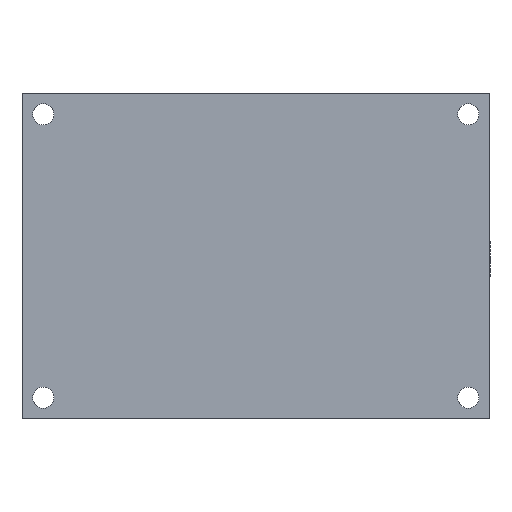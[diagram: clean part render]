
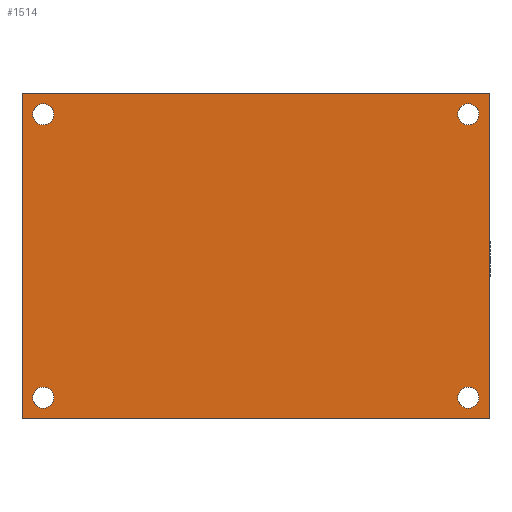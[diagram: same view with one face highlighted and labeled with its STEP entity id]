
A CAD part, top view. The second image highlights one B-rep face of the part: STEP entity #1514.
In plain terms, the highlighted planar face has unit normal (0, 0, 1).
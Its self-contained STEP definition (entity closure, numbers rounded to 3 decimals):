
#21 = AXIS2_PLACEMENT_3D ( 'NONE', #1405, #1580, #161 ) ;
#24 = VERTEX_POINT ( 'NONE', #1879 ) ;
#31 = EDGE_CURVE ( 'NONE', #1352, #1154, #1092, .T. ) ;
#40 = CARTESIAN_POINT ( 'NONE',  ( 38.151, 20.444, 1.5 ) ) ;
#79 = ORIENTED_EDGE ( 'NONE', *, *, #310, .T. ) ;
#86 = DIRECTION ( 'NONE',  ( 1., 0., 0. ) ) ;
#105 = CARTESIAN_POINT ( 'NONE',  ( -23.349, -22.556, 1.5 ) ) ;
#126 = CARTESIAN_POINT ( 'NONE',  ( -24.849, -22.556, 1.5 ) ) ;
#135 = LINE ( 'NONE', #1757, #183 ) ;
#144 = PLANE ( 'NONE',  #21 ) ;
#161 = DIRECTION ( 'NONE',  ( 1., 0., 0. ) ) ;
#175 = VECTOR ( 'NONE', #402, 1000. ) ;
#183 = VECTOR ( 'NONE', #761, 1000. ) ;
#205 = LINE ( 'NONE', #40, #595 ) ;
#207 = VERTEX_POINT ( 'NONE', #650 ) ;
#229 = VERTEX_POINT ( 'NONE', #659 ) ;
#239 = ORIENTED_EDGE ( 'NONE', *, *, #1685, .F. ) ;
#243 = VECTOR ( 'NONE', #1298, 1000. ) ;
#310 = EDGE_CURVE ( 'NONE', #229, #24, #205, .T. ) ;
#313 = ORIENTED_EDGE ( 'NONE', *, *, #518, .F. ) ;
#337 = EDGE_CURVE ( 'NONE', #1764, #207, #1979, .T. ) ;
#348 = CIRCLE ( 'NONE', #1665, 1.5 ) ;
#358 = EDGE_LOOP ( 'NONE', ( #1574, #1381 ) ) ;
#386 = ORIENTED_EDGE ( 'NONE', *, *, #1655, .F. ) ;
#402 = DIRECTION ( 'NONE',  ( -1., 0., 0. ) ) ;
#405 = AXIS2_PLACEMENT_3D ( 'NONE', #1455, #1148, #687 ) ;
#409 = AXIS2_PLACEMENT_3D ( 'NONE', #903, #2024, #1828 ) ;
#422 = CARTESIAN_POINT ( 'NONE',  ( -27.849, 20.444, 1.5 ) ) ;
#431 = CARTESIAN_POINT ( 'NONE',  ( 35.151, 17.444, 1.5 ) ) ;
#449 = EDGE_CURVE ( 'NONE', #24, #1764, #1830, .T. ) ;
#456 = VERTEX_POINT ( 'NONE', #105 ) ;
#473 = CIRCLE ( 'NONE', #409, 1.5 ) ;
#484 = CARTESIAN_POINT ( 'NONE',  ( 36.651, -22.556, 1.5 ) ) ;
#518 = EDGE_CURVE ( 'NONE', #456, #1529, #864, .T. ) ;
#522 = CARTESIAN_POINT ( 'NONE',  ( -23.349, 17.444, 1.5 ) ) ;
#523 = CARTESIAN_POINT ( 'NONE',  ( -26.349, 17.444, 1.5 ) ) ;
#547 = EDGE_CURVE ( 'NONE', #1560, #777, #348, .T. ) ;
#594 = CARTESIAN_POINT ( 'NONE',  ( -24.849, 17.444, 1.5 ) ) ;
#595 = VECTOR ( 'NONE', #1318, 1000. ) ;
#615 = FACE_BOUND ( 'NONE', #2013, .T. ) ;
#618 = DIRECTION ( 'NONE',  ( 1., 0., 0. ) ) ;
#642 = FACE_BOUND ( 'NONE', #1729, .T. ) ;
#650 = CARTESIAN_POINT ( 'NONE',  ( -27.849, -25.556, 1.5 ) ) ;
#659 = CARTESIAN_POINT ( 'NONE',  ( 38.151, -25.556, 1.5 ) ) ;
#687 = DIRECTION ( 'NONE',  ( 1., 0., 0. ) ) ;
#759 = EDGE_LOOP ( 'NONE', ( #1184, #1010, #79, #1345 ) ) ;
#761 = DIRECTION ( 'NONE',  ( 1., 0., 0. ) ) ;
#772 = AXIS2_PLACEMENT_3D ( 'NONE', #1208, #1073, #1689 ) ;
#777 = VERTEX_POINT ( 'NONE', #522 ) ;
#824 = VERTEX_POINT ( 'NONE', #858 ) ;
#851 = CARTESIAN_POINT ( 'NONE',  ( -27.849, 20.444, 1.5 ) ) ;
#857 = EDGE_CURVE ( 'NONE', #1529, #456, #2034, .T. ) ;
#858 = CARTESIAN_POINT ( 'NONE',  ( 33.651, 17.444, 1.5 ) ) ;
#864 = CIRCLE ( 'NONE', #1695, 1.5 ) ;
#892 = AXIS2_PLACEMENT_3D ( 'NONE', #1832, #1349, #1847 ) ;
#903 = CARTESIAN_POINT ( 'NONE',  ( 35.151, 17.444, 1.5 ) ) ;
#911 = FACE_BOUND ( 'NONE', #358, .T. ) ;
#924 = FACE_OUTER_BOUND ( 'NONE', #759, .T. ) ;
#985 = DIRECTION ( 'NONE',  ( 0., 0., 1. ) ) ;
#1010 = ORIENTED_EDGE ( 'NONE', *, *, #1404, .T. ) ;
#1050 = CARTESIAN_POINT ( 'NONE',  ( 33.651, -22.556, 1.5 ) ) ;
#1073 = DIRECTION ( 'NONE',  ( 0., 0., 1. ) ) ;
#1092 = CIRCLE ( 'NONE', #892, 1.5 ) ;
#1148 = DIRECTION ( 'NONE',  ( 0., 0., 1. ) ) ;
#1154 = VERTEX_POINT ( 'NONE', #484 ) ;
#1184 = ORIENTED_EDGE ( 'NONE', *, *, #337, .T. ) ;
#1208 = CARTESIAN_POINT ( 'NONE',  ( -24.849, 17.444, 1.5 ) ) ;
#1213 = VERTEX_POINT ( 'NONE', #1868 ) ;
#1226 = DIRECTION ( 'NONE',  ( 0., 0., 1. ) ) ;
#1235 = CARTESIAN_POINT ( 'NONE',  ( -27.849, 20.444, 1.5 ) ) ;
#1298 = DIRECTION ( 'NONE',  ( 0., -1., 0. ) ) ;
#1318 = DIRECTION ( 'NONE',  ( 0., 1., 0. ) ) ;
#1339 = AXIS2_PLACEMENT_3D ( 'NONE', #431, #1226, #618 ) ;
#1345 = ORIENTED_EDGE ( 'NONE', *, *, #449, .T. ) ;
#1349 = DIRECTION ( 'NONE',  ( 0., 0., 1. ) ) ;
#1352 = VERTEX_POINT ( 'NONE', #1050 ) ;
#1381 = ORIENTED_EDGE ( 'NONE', *, *, #31, .F. ) ;
#1404 = EDGE_CURVE ( 'NONE', #207, #229, #135, .T. ) ;
#1405 = CARTESIAN_POINT ( 'NONE',  ( 0., 0., 1.5 ) ) ;
#1455 = CARTESIAN_POINT ( 'NONE',  ( -24.849, -22.556, 1.5 ) ) ;
#1514 = ADVANCED_FACE ( 'NONE', ( #2023, #911, #642, #615, #924 ), #144, .T. ) ;
#1529 = VERTEX_POINT ( 'NONE', #1836 ) ;
#1560 = VERTEX_POINT ( 'NONE', #523 ) ;
#1574 = ORIENTED_EDGE ( 'NONE', *, *, #1794, .F. ) ;
#1580 = DIRECTION ( 'NONE',  ( 0., 0., 1. ) ) ;
#1585 = ORIENTED_EDGE ( 'NONE', *, *, #547, .F. ) ;
#1593 = ORIENTED_EDGE ( 'NONE', *, *, #1618, .F. ) ;
#1611 = CIRCLE ( 'NONE', #772, 1.5 ) ;
#1612 = DIRECTION ( 'NONE',  ( 1., 0., 0. ) ) ;
#1618 = EDGE_CURVE ( 'NONE', #1213, #824, #2037, .T. ) ;
#1655 = EDGE_CURVE ( 'NONE', #777, #1560, #1611, .T. ) ;
#1665 = AXIS2_PLACEMENT_3D ( 'NONE', #594, #1700, #86 ) ;
#1673 = DIRECTION ( 'NONE',  ( 0., 0., 1. ) ) ;
#1685 = EDGE_CURVE ( 'NONE', #824, #1213, #473, .T. ) ;
#1689 = DIRECTION ( 'NONE',  ( 1., 0., 0. ) ) ;
#1695 = AXIS2_PLACEMENT_3D ( 'NONE', #126, #1673, #1853 ) ;
#1700 = DIRECTION ( 'NONE',  ( 0., 0., 1. ) ) ;
#1729 = EDGE_LOOP ( 'NONE', ( #313, #1851 ) ) ;
#1736 = AXIS2_PLACEMENT_3D ( 'NONE', #1778, #985, #1612 ) ;
#1757 = CARTESIAN_POINT ( 'NONE',  ( -27.849, -25.556, 1.5 ) ) ;
#1764 = VERTEX_POINT ( 'NONE', #1235 ) ;
#1778 = CARTESIAN_POINT ( 'NONE',  ( 35.151, -22.556, 1.5 ) ) ;
#1794 = EDGE_CURVE ( 'NONE', #1154, #1352, #1974, .T. ) ;
#1828 = DIRECTION ( 'NONE',  ( 1., 0., 0. ) ) ;
#1830 = LINE ( 'NONE', #422, #175 ) ;
#1832 = CARTESIAN_POINT ( 'NONE',  ( 35.151, -22.556, 1.5 ) ) ;
#1836 = CARTESIAN_POINT ( 'NONE',  ( -26.349, -22.556, 1.5 ) ) ;
#1847 = DIRECTION ( 'NONE',  ( 1., 0., 0. ) ) ;
#1851 = ORIENTED_EDGE ( 'NONE', *, *, #857, .F. ) ;
#1853 = DIRECTION ( 'NONE',  ( 1., 0., 0. ) ) ;
#1868 = CARTESIAN_POINT ( 'NONE',  ( 36.651, 17.444, 1.5 ) ) ;
#1879 = CARTESIAN_POINT ( 'NONE',  ( 38.151, 20.444, 1.5 ) ) ;
#1974 = CIRCLE ( 'NONE', #1736, 1.5 ) ;
#1976 = EDGE_LOOP ( 'NONE', ( #1593, #239 ) ) ;
#1979 = LINE ( 'NONE', #851, #243 ) ;
#2013 = EDGE_LOOP ( 'NONE', ( #386, #1585 ) ) ;
#2023 = FACE_BOUND ( 'NONE', #1976, .T. ) ;
#2024 = DIRECTION ( 'NONE',  ( 0., 0., 1. ) ) ;
#2034 = CIRCLE ( 'NONE', #405, 1.5 ) ;
#2037 = CIRCLE ( 'NONE', #1339, 1.5 ) ;
